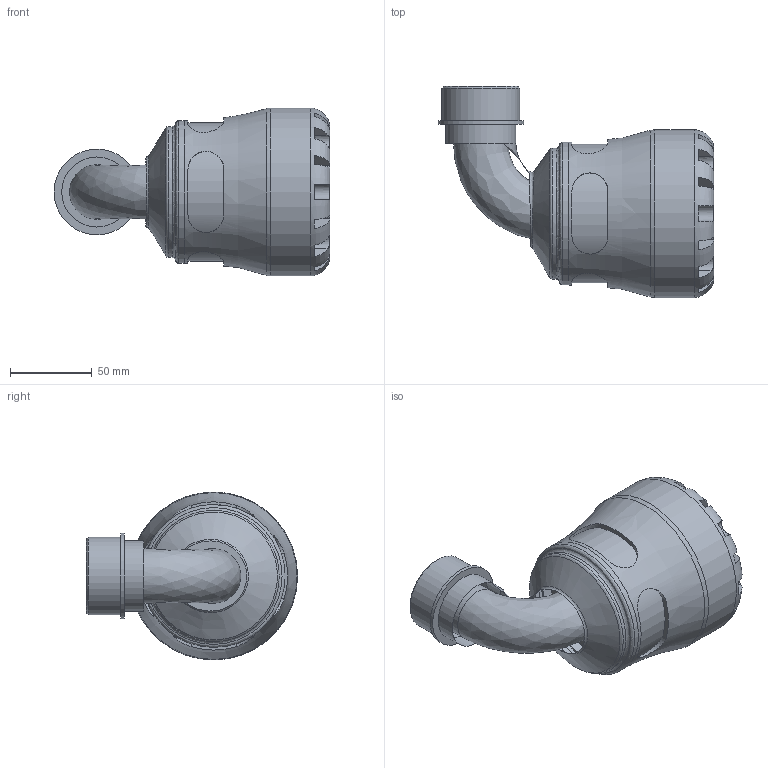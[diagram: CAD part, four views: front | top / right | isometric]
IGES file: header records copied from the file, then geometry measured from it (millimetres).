
Global section: file name: 108500063015_198500063015.ipt; native system: Autodesk Inventor 2015; preprocessor: unknown; author: KIM; date: 20190127.091530; units: millimetre
Bounding box: 169.29 x 129.5 x 103 mm (x, y, z)
Volume: 494090.6 mm3; surface area: 88636.1 mm2
Topology: 1 solids, 1 shells, 110 faces, 280 edges, 176 vertices
Faces by surface type: plane 61, revolution 26, cylinder 18, bspline 4, cone 1
Full cylindrical faces by diameter (mm): 43.023 x1, 47.803 x1, 52.583 x1, 80.34 x1, 87.55 x1, 103 x1
